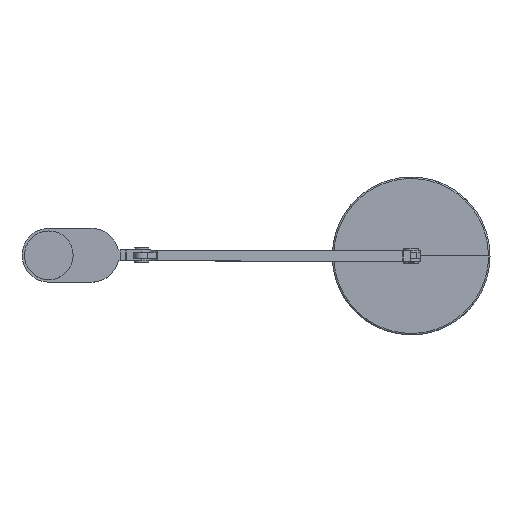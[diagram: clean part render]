
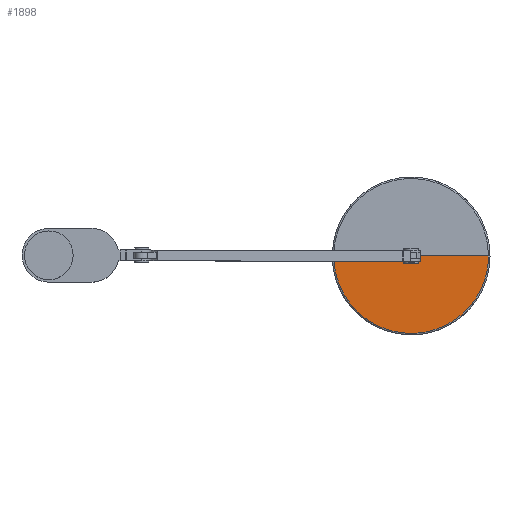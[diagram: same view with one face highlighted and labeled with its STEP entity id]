
A CAD part, top view. The second image highlights one B-rep face of the part: STEP entity #1898.
In plain terms, the highlighted planar face has unit normal (0, 0, 1).
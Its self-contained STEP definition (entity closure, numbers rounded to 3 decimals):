
#75=PLANE('',#2046);
#237=LINE('',#3267,#425);
#425=VECTOR('',#2279,304.8);
#655=FACE_OUTER_BOUND('',#784,.T.);
#784=EDGE_LOOP('',(#1390,#1391));
#902=B_SPLINE_CURVE_WITH_KNOTS('',3,(#2842,#2843,#2844,#2845,#2846,#2847,
#2848,#2849,#2850,#2851,#2852,#2853,#2854),.UNSPECIFIED.,.F.,.F.,(4,1,1,
1,1,1,1,1,1,1,4),(0.,0.1,0.2,0.3,0.4,0.5,0.6,0.7,0.8,0.9,1.),
 .UNSPECIFIED.);
#914=VERTEX_POINT('',#2840);
#915=VERTEX_POINT('',#2841);
#1078=EDGE_CURVE('',#914,#915,#902,.T.);
#1101=EDGE_CURVE('',#914,#915,#237,.T.);
#1390=ORIENTED_EDGE('',*,*,#1101,.F.);
#1391=ORIENTED_EDGE('',*,*,#1078,.T.);
#1898=ADVANCED_FACE('',(#655),#75,.T.);
#2046=AXIS2_PLACEMENT_3D('',#3266,#2277,#2278);
#2277=DIRECTION('center_axis',(0.,0.,1.));
#2278=DIRECTION('ref_axis',(1.,0.,0.));
#2279=DIRECTION('',(1.,0.,0.));
#2840=CARTESIAN_POINT('',(-107.922,0.,24.));
#2841=CARTESIAN_POINT('',(107.922,0.,24.));
#2842=CARTESIAN_POINT('Ctrl Pts',(-107.922,0.,24.));
#2843=CARTESIAN_POINT('Ctrl Pts',(-107.982,-11.32,24.));
#2844=CARTESIAN_POINT('Ctrl Pts',(-104.314,-33.894,24.));
#2845=CARTESIAN_POINT('Ctrl Pts',(-88.766,-64.489,24.));
#2846=CARTESIAN_POINT('Ctrl Pts',(-64.485,-88.758,24.));
#2847=CARTESIAN_POINT('Ctrl Pts',(-33.903,-104.342,24.));
#2848=CARTESIAN_POINT('Ctrl Pts',(0.,-109.712,
24.));
#2849=CARTESIAN_POINT('Ctrl Pts',(33.903,-104.342,24.));
#2850=CARTESIAN_POINT('Ctrl Pts',(64.485,-88.758,24.));
#2851=CARTESIAN_POINT('Ctrl Pts',(88.766,-64.489,24.));
#2852=CARTESIAN_POINT('Ctrl Pts',(104.314,-33.894,24.));
#2853=CARTESIAN_POINT('Ctrl Pts',(107.982,-11.32,24.));
#2854=CARTESIAN_POINT('Ctrl Pts',(107.922,0.,24.));
#3266=CARTESIAN_POINT('Origin',(0.,0.,24.));
#3267=CARTESIAN_POINT('',(-107.922,0.,24.));
